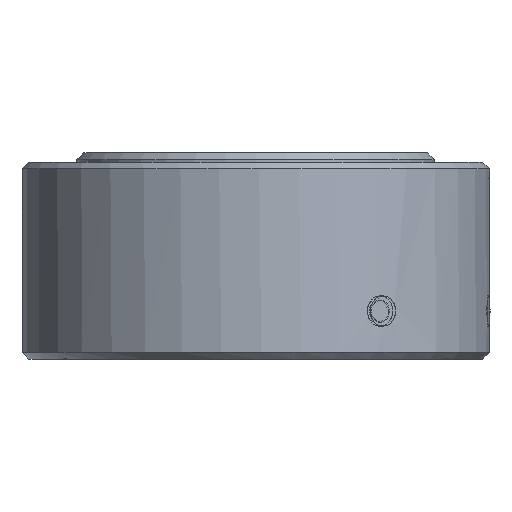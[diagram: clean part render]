
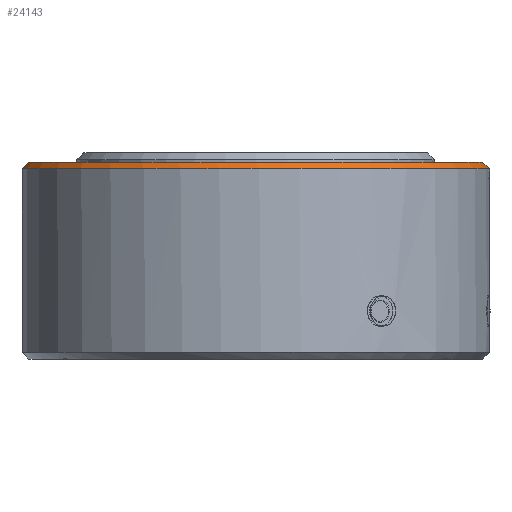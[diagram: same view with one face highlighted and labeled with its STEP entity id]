
A CAD part, front view. The second image highlights one B-rep face of the part: STEP entity #24143.
In plain terms, the highlighted conical face has half-angle 45 degrees and reference radius 16.5 mm.
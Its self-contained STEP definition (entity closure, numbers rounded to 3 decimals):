
#8886 = CARTESIAN_POINT ( 'NONE',  ( -0.25, 16.998, 13.83 ) ) ;
#9334 = ORIENTED_EDGE ( 'NONE', *, *, #84915, .F. ) ;
#9728 = DIRECTION ( 'NONE',  ( 1., 0., 0. ) ) ;
#9884 = CARTESIAN_POINT ( 'NONE',  ( -0.25, 16.498, 14.33 ) ) ;
#10334 = CIRCLE ( 'NONE', #35889, 17. ) ;
#15590 = CARTESIAN_POINT ( 'NONE',  ( 16.665, -0.25, 14.163 ) ) ;
#18135 = EDGE_CURVE ( 'NONE', #77728, #38724, #94549, .T. ) ;
#20066 = ORIENTED_EDGE ( 'NONE', *, *, #70206, .F. ) ;
#24143 = ADVANCED_FACE ( 'NONE', ( #67606 ), #44038, .T. ) ;
#25393 = CARTESIAN_POINT ( 'NONE',  ( -0.25, 16.831, 13.997 ) ) ;
#26795 = DIRECTION ( 'NONE',  ( 0., 0., -1. ) ) ;
#27454 = CARTESIAN_POINT ( 'NONE',  ( -0.25, 16.498, 14.33 ) ) ;
#29342 = EDGE_CURVE ( 'NONE', #31452, #77728, #70867, .T. ) ;
#31452 = VERTEX_POINT ( 'NONE', #41723 ) ;
#33851 = DIRECTION ( 'NONE',  ( 1., 0., 0. ) ) ;
#35889 = AXIS2_PLACEMENT_3D ( 'NONE', #36924, #97827, #33851 ) ;
#36924 = CARTESIAN_POINT ( 'NONE',  ( 0., 0., 13.83 ) ) ;
#38079 = CARTESIAN_POINT ( 'NONE',  ( 16.498, -0.25, 14.33 ) ) ;
#38724 = VERTEX_POINT ( 'NONE', #54587 ) ;
#39049 = B_SPLINE_CURVE_WITH_KNOTS ( 'NONE', 3,
 ( #38079, #15590, #92016, #53565 ),
 .UNSPECIFIED., .F., .F.,
 ( 4, 4 ),
 ( 0.005, 0.006 ),
 .UNSPECIFIED. ) ;
#41723 = CARTESIAN_POINT ( 'NONE',  ( -0.25, 16.998, 13.83 ) ) ;
#44038 = CONICAL_SURFACE ( 'NONE', #71168, 16.5, 0.785 ) ;
#50718 = CARTESIAN_POINT ( 'NONE',  ( 0., 0., 14.33 ) ) ;
#52753 = ORIENTED_EDGE ( 'NONE', *, *, #29342, .F. ) ;
#53565 = CARTESIAN_POINT ( 'NONE',  ( 16.998, -0.25, 13.83 ) ) ;
#54587 = CARTESIAN_POINT ( 'NONE',  ( 16.498, -0.25, 14.33 ) ) ;
#55531 = EDGE_LOOP ( 'NONE', ( #9334, #20066, #62882, #52753 ) ) ;
#62167 = CARTESIAN_POINT ( 'NONE',  ( 16.998, -0.25, 13.83 ) ) ;
#62882 = ORIENTED_EDGE ( 'NONE', *, *, #18135, .F. ) ;
#65236 = DIRECTION ( 'NONE',  ( -1., 0., 0. ) ) ;
#65663 = VERTEX_POINT ( 'NONE', #62167 ) ;
#67606 = FACE_OUTER_BOUND ( 'NONE', #55531, .T. ) ;
#70206 = EDGE_CURVE ( 'NONE', #38724, #65663, #39049, .T. ) ;
#70867 = B_SPLINE_CURVE_WITH_KNOTS ( 'NONE', 3,
 ( #8886, #25393, #78358, #9884 ),
 .UNSPECIFIED., .F., .F.,
 ( 4, 4 ),
 ( 0.005, 0.006 ),
 .UNSPECIFIED. ) ;
#71168 = AXIS2_PLACEMENT_3D ( 'NONE', #50718, #26795, #65236 ) ;
#73840 = AXIS2_PLACEMENT_3D ( 'NONE', #78194, #84722, #9728 ) ;
#77728 = VERTEX_POINT ( 'NONE', #27454 ) ;
#78194 = CARTESIAN_POINT ( 'NONE',  ( 0., 0., 14.33 ) ) ;
#78358 = CARTESIAN_POINT ( 'NONE',  ( -0.25, 16.665, 14.163 ) ) ;
#84722 = DIRECTION ( 'NONE',  ( 0., 0., 1. ) ) ;
#84915 = EDGE_CURVE ( 'NONE', #65663, #31452, #10334, .T. ) ;
#92016 = CARTESIAN_POINT ( 'NONE',  ( 16.831, -0.25, 13.997 ) ) ;
#94549 = CIRCLE ( 'NONE', #73840, 16.5 ) ;
#97827 = DIRECTION ( 'NONE',  ( 0., 0., -1. ) ) ;
